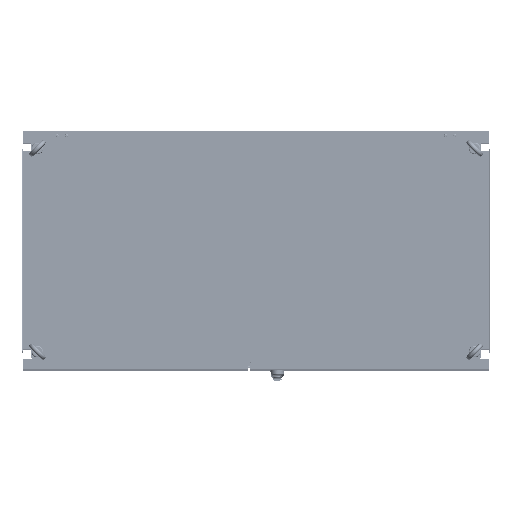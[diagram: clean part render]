
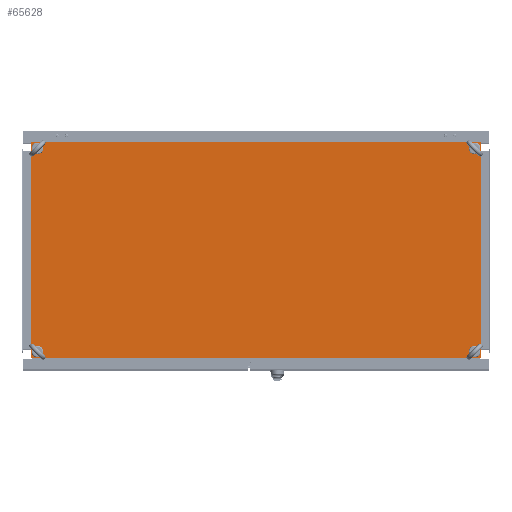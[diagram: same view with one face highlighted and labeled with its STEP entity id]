
A CAD part, top view. The second image highlights one B-rep face of the part: STEP entity #65628.
In plain terms, the highlighted planar face has unit normal (0, 0, 1).
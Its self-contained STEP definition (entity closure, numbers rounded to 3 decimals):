
#77=VERTEX_LOOP('',#37052);
#78=VERTEX_LOOP('',#37053);
#79=VERTEX_LOOP('',#37054);
#80=VERTEX_LOOP('',#37055);
#3918=PLANE('',#73073);
#5449=CIRCLE('',#73074,6.5);
#5450=CIRCLE('',#73075,6.5);
#5451=CIRCLE('',#73076,6.5);
#5452=CIRCLE('',#73077,6.5);
#21892=ORIENTED_EDGE('',*,*,#30880,.F.);
#21893=ORIENTED_EDGE('',*,*,#30881,.F.);
#21894=ORIENTED_EDGE('',*,*,#30882,.F.);
#21895=ORIENTED_EDGE('',*,*,#30883,.F.);
#21896=ORIENTED_EDGE('',*,*,#30884,.F.);
#21897=ORIENTED_EDGE('',*,*,#30885,.F.);
#21898=ORIENTED_EDGE('',*,*,#30886,.F.);
#21899=ORIENTED_EDGE('',*,*,#30887,.F.);
#30880=EDGE_CURVE('',#37048,#37048,#5449,.T.);
#30881=EDGE_CURVE('',#37049,#37049,#5450,.T.);
#30882=EDGE_CURVE('',#37050,#37050,#5451,.T.);
#30883=EDGE_CURVE('',#37051,#37051,#5452,.T.);
#30884=EDGE_CURVE('',#37056,#37057,#43859,.T.);
#30885=EDGE_CURVE('',#37058,#37056,#43860,.T.);
#30886=EDGE_CURVE('',#37059,#37058,#43861,.T.);
#30887=EDGE_CURVE('',#37057,#37059,#43862,.T.);
#37048=VERTEX_POINT('',#108951);
#37049=VERTEX_POINT('',#108953);
#37050=VERTEX_POINT('',#108955);
#37051=VERTEX_POINT('',#108957);
#37052=VERTEX_POINT('',#108958);
#37053=VERTEX_POINT('',#108959);
#37054=VERTEX_POINT('',#108960);
#37055=VERTEX_POINT('',#108961);
#37056=VERTEX_POINT('',#108963);
#37057=VERTEX_POINT('',#108964);
#37058=VERTEX_POINT('',#108966);
#37059=VERTEX_POINT('',#108968);
#43859=LINE('',#108962,#50577);
#43860=LINE('',#108965,#50578);
#43861=LINE('',#108967,#50579);
#43862=LINE('',#108969,#50580);
#50577=VECTOR('',#89270,1000.);
#50578=VECTOR('',#89271,1000.);
#50579=VECTOR('',#89272,1000.);
#50580=VECTOR('',#89273,1000.);
#56000=EDGE_LOOP('',(#21892));
#56001=EDGE_LOOP('',(#21893));
#56002=EDGE_LOOP('',(#21894));
#56003=EDGE_LOOP('',(#21895));
#56004=EDGE_LOOP('',(#21896,#21897,#21898,#21899));
#61528=FACE_BOUND('',#56000,.T.);
#61529=FACE_BOUND('',#56001,.T.);
#61530=FACE_BOUND('',#56002,.T.);
#61531=FACE_BOUND('',#56003,.T.);
#61532=FACE_BOUND('',#77,.T.);
#61533=FACE_BOUND('',#78,.T.);
#61534=FACE_BOUND('',#79,.T.);
#61535=FACE_BOUND('',#80,.T.);
#61536=FACE_BOUND('',#56004,.T.);
#65628=ADVANCED_FACE('',(#61528,#61529,#61530,#61531,#61532,#61533,#61534,
#61535,#61536),#3918,.F.);
#73073=AXIS2_PLACEMENT_3D('',#108949,#89260,#89261);
#73074=AXIS2_PLACEMENT_3D('',#108950,#89262,#89263);
#73075=AXIS2_PLACEMENT_3D('',#108952,#89264,#89265);
#73076=AXIS2_PLACEMENT_3D('',#108954,#89266,#89267);
#73077=AXIS2_PLACEMENT_3D('',#108956,#89268,#89269);
#89260=DIRECTION('',(0.,0.,-1.));
#89261=DIRECTION('',(-1.,0.,0.));
#89262=DIRECTION('',(0.,0.,1.));
#89263=DIRECTION('',(1.,0.,0.));
#89264=DIRECTION('',(0.,0.,1.));
#89265=DIRECTION('',(1.,0.,0.));
#89266=DIRECTION('',(0.,0.,1.));
#89267=DIRECTION('',(1.,0.,0.));
#89268=DIRECTION('',(0.,0.,1.));
#89269=DIRECTION('',(1.,0.,0.));
#89270=DIRECTION('',(0.,1.,0.));
#89271=DIRECTION('',(-1.,0.,0.));
#89272=DIRECTION('',(0.,-1.,0.));
#89273=DIRECTION('',(1.,0.,0.));
#108949=CARTESIAN_POINT('',(0.,0.,0.));
#108950=CARTESIAN_POINT('',(560.5,260.5,0.));
#108951=CARTESIAN_POINT('',(567.,260.5,0.));
#108952=CARTESIAN_POINT('',(-560.5,260.5,0.));
#108953=CARTESIAN_POINT('',(-554.,260.5,0.));
#108954=CARTESIAN_POINT('',(560.5,-260.5,0.));
#108955=CARTESIAN_POINT('',(567.,-260.5,0.));
#108956=CARTESIAN_POINT('',(-560.5,-260.5,0.));
#108957=CARTESIAN_POINT('',(-554.,-260.5,0.));
#108958=CARTESIAN_POINT('',(574.2,274.201,0.));
#108959=CARTESIAN_POINT('',(574.201,-274.201,0.));
#108960=CARTESIAN_POINT('',(-574.2,-274.201,0.));
#108961=CARTESIAN_POINT('',(-574.201,274.201,0.));
#108962=CARTESIAN_POINT('',(-577.,-277.,0.));
#108963=CARTESIAN_POINT('',(-577.,-277.,0.));
#108964=CARTESIAN_POINT('',(-577.,277.,0.));
#108965=CARTESIAN_POINT('',(577.,-277.,0.));
#108966=CARTESIAN_POINT('',(577.,-277.,0.));
#108967=CARTESIAN_POINT('',(577.,277.,0.));
#108968=CARTESIAN_POINT('',(577.,277.,0.));
#108969=CARTESIAN_POINT('',(-577.,277.,0.));
